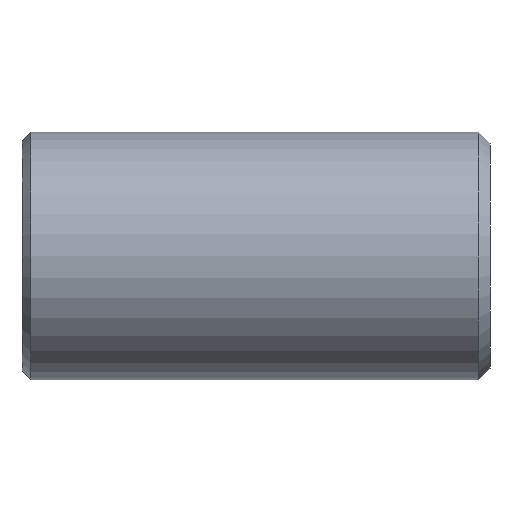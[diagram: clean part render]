
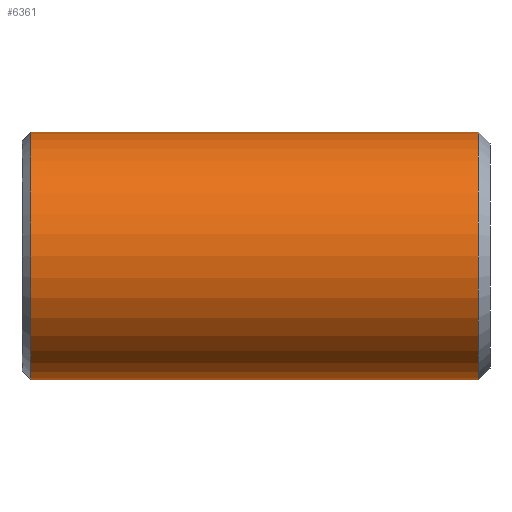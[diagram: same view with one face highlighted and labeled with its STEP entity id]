
A CAD part, front view. The second image highlights one B-rep face of the part: STEP entity #6361.
In plain terms, the highlighted cylindrical face has radius 6.35 mm (diameter 12.7 mm), a full revolution.
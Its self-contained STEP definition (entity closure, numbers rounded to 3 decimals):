
#43 = CONICAL_SURFACE('',#44,5.9,0.785);
#44 = AXIS2_PLACEMENT_3D('',#45,#46,#47);
#45 = CARTESIAN_POINT('',(84.375,0.,0.));
#46 = DIRECTION('',(1.,0.,0.));
#47 = DIRECTION('',(-0.,1.,0.));
#1135 = VERTEX_POINT('',#1136);
#1136 = CARTESIAN_POINT('',(84.825,6.35,0.));
#1157 = EDGE_CURVE('',#1135,#1135,#1158,.T.);
#1158 = SURFACE_CURVE('',#1159,(#1164,#1171),.PCURVE_S1.);
#1159 = CIRCLE('',#1160,6.35);
#1160 = AXIS2_PLACEMENT_3D('',#1161,#1162,#1163);
#1161 = CARTESIAN_POINT('',(84.825,0.,0.));
#1162 = DIRECTION('',(1.,0.,0.));
#1163 = DIRECTION('',(-0.,1.,0.));
#1164 = PCURVE('',#43,#1165);
#1165 = DEFINITIONAL_REPRESENTATION('',(#1166),#1170);
#1166 = LINE('',#1167,#1168);
#1167 = CARTESIAN_POINT('',(0.,0.45));
#1168 = VECTOR('',#1169,1.);
#1169 = DIRECTION('',(1.,0.));
#1170 = ( GEOMETRIC_REPRESENTATION_CONTEXT(2) 
PARAMETRIC_REPRESENTATION_CONTEXT() REPRESENTATION_CONTEXT('2D SPACE',''
  ) );
#1171 = PCURVE('',#1172,#1177);
#1172 = CYLINDRICAL_SURFACE('',#1173,6.35);
#1173 = AXIS2_PLACEMENT_3D('',#1174,#1175,#1176);
#1174 = CARTESIAN_POINT('',(84.825,0.,0.));
#1175 = DIRECTION('',(1.,0.,0.));
#1176 = DIRECTION('',(-0.,1.,0.));
#1177 = DEFINITIONAL_REPRESENTATION('',(#1178),#1182);
#1178 = LINE('',#1179,#1180);
#1179 = CARTESIAN_POINT('',(0.,0.));
#1180 = VECTOR('',#1181,1.);
#1181 = DIRECTION('',(1.,0.));
#1182 = ( GEOMETRIC_REPRESENTATION_CONTEXT(2) 
PARAMETRIC_REPRESENTATION_CONTEXT() REPRESENTATION_CONTEXT('2D SPACE',''
  ) );
#6361 = ADVANCED_FACE('',(#6362),#1172,.T.);
#6362 = FACE_BOUND('',#6363,.T.);
#6363 = EDGE_LOOP('',(#6364,#6365,#6388,#6415));
#6364 = ORIENTED_EDGE('',*,*,#1157,.T.);
#6365 = ORIENTED_EDGE('',*,*,#6366,.T.);
#6366 = EDGE_CURVE('',#1135,#6367,#6369,.T.);
#6367 = VERTEX_POINT('',#6368);
#6368 = CARTESIAN_POINT('',(107.775,6.35,0.));
#6369 = SEAM_CURVE('',#6370,(#6374,#6381),.PCURVE_S1.);
#6370 = LINE('',#6371,#6372);
#6371 = CARTESIAN_POINT('',(84.825,6.35,0.));
#6372 = VECTOR('',#6373,1.);
#6373 = DIRECTION('',(1.,0.,0.));
#6374 = PCURVE('',#1172,#6375);
#6375 = DEFINITIONAL_REPRESENTATION('',(#6376),#6380);
#6376 = LINE('',#6377,#6378);
#6377 = CARTESIAN_POINT('',(0.,0.));
#6378 = VECTOR('',#6379,1.);
#6379 = DIRECTION('',(0.,1.));
#6380 = ( GEOMETRIC_REPRESENTATION_CONTEXT(2) 
PARAMETRIC_REPRESENTATION_CONTEXT() REPRESENTATION_CONTEXT('2D SPACE',''
  ) );
#6381 = PCURVE('',#1172,#6382);
#6382 = DEFINITIONAL_REPRESENTATION('',(#6383),#6387);
#6383 = LINE('',#6384,#6385);
#6384 = CARTESIAN_POINT('',(6.283,0.));
#6385 = VECTOR('',#6386,1.);
#6386 = DIRECTION('',(0.,1.));
#6387 = ( GEOMETRIC_REPRESENTATION_CONTEXT(2) 
PARAMETRIC_REPRESENTATION_CONTEXT() REPRESENTATION_CONTEXT('2D SPACE',''
  ) );
#6388 = ORIENTED_EDGE('',*,*,#6389,.F.);
#6389 = EDGE_CURVE('',#6367,#6367,#6390,.T.);
#6390 = SURFACE_CURVE('',#6391,(#6396,#6403),.PCURVE_S1.);
#6391 = CIRCLE('',#6392,6.35);
#6392 = AXIS2_PLACEMENT_3D('',#6393,#6394,#6395);
#6393 = CARTESIAN_POINT('',(107.775,0.,0.));
#6394 = DIRECTION('',(1.,0.,0.));
#6395 = DIRECTION('',(-0.,1.,0.));
#6396 = PCURVE('',#1172,#6397);
#6397 = DEFINITIONAL_REPRESENTATION('',(#6398),#6402);
#6398 = LINE('',#6399,#6400);
#6399 = CARTESIAN_POINT('',(0.,22.95));
#6400 = VECTOR('',#6401,1.);
#6401 = DIRECTION('',(1.,0.));
#6402 = ( GEOMETRIC_REPRESENTATION_CONTEXT(2) 
PARAMETRIC_REPRESENTATION_CONTEXT() REPRESENTATION_CONTEXT('2D SPACE',''
  ) );
#6403 = PCURVE('',#6404,#6409);
#6404 = CONICAL_SURFACE('',#6405,6.35,0.785);
#6405 = AXIS2_PLACEMENT_3D('',#6406,#6407,#6408);
#6406 = CARTESIAN_POINT('',(107.775,0.,0.));
#6407 = DIRECTION('',(-1.,-0.,-0.));
#6408 = DIRECTION('',(-0.,1.,0.));
#6409 = DEFINITIONAL_REPRESENTATION('',(#6410),#6414);
#6410 = LINE('',#6411,#6412);
#6411 = CARTESIAN_POINT('',(-0.,-0.));
#6412 = VECTOR('',#6413,1.);
#6413 = DIRECTION('',(-1.,-0.));
#6414 = ( GEOMETRIC_REPRESENTATION_CONTEXT(2) 
PARAMETRIC_REPRESENTATION_CONTEXT() REPRESENTATION_CONTEXT('2D SPACE',''
  ) );
#6415 = ORIENTED_EDGE('',*,*,#6366,.F.);
